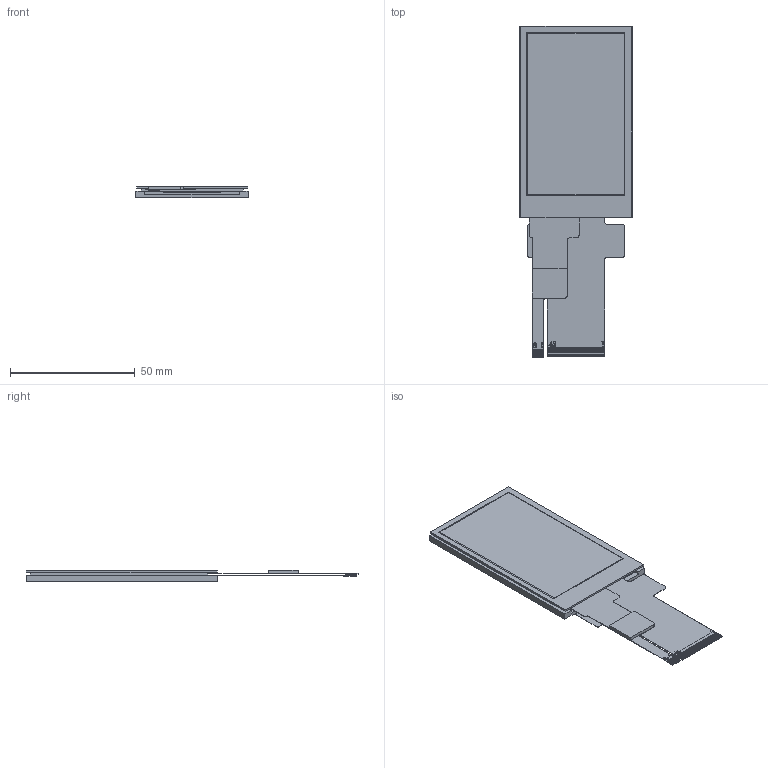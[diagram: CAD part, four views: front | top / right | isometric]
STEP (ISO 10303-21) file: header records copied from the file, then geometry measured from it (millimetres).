
FILE_DESCRIPTION (( 'STEP AP214' ), '1' );
FILE_NAME ('CFAF240400C1-030TC.STEP', '2022-08-16T21:02:49', ( '' ), ( '' ), 'SwSTEP 2.0', 'SolidWorks 2021', '' );
FILE_SCHEMA (( 'AUTOMOTIVE_DESIGN' ));
Length unit declared in the file: millimetre
Products named in the file (1): CFAF240400C1-030TC
Bounding box: 45.04 x 133.2 x 4.55 mm (x, y, z)
Volume: 14694.5 mm3; surface area: 20172.8 mm2
Topology: 5 solids, 5 shells, 359 faces, 1020 edges, 682 vertices
Faces by surface type: plane 320, bspline 25, cylinder 14
Entity records: 13090 total; most frequent: CARTESIAN_POINT 3631, ORIENTED_EDGE 2040, DIRECTION 1668, EDGE_CURVE 1020, LINE 942, VECTOR 942, VERTEX_POINT 682, EDGE_LOOP 370
